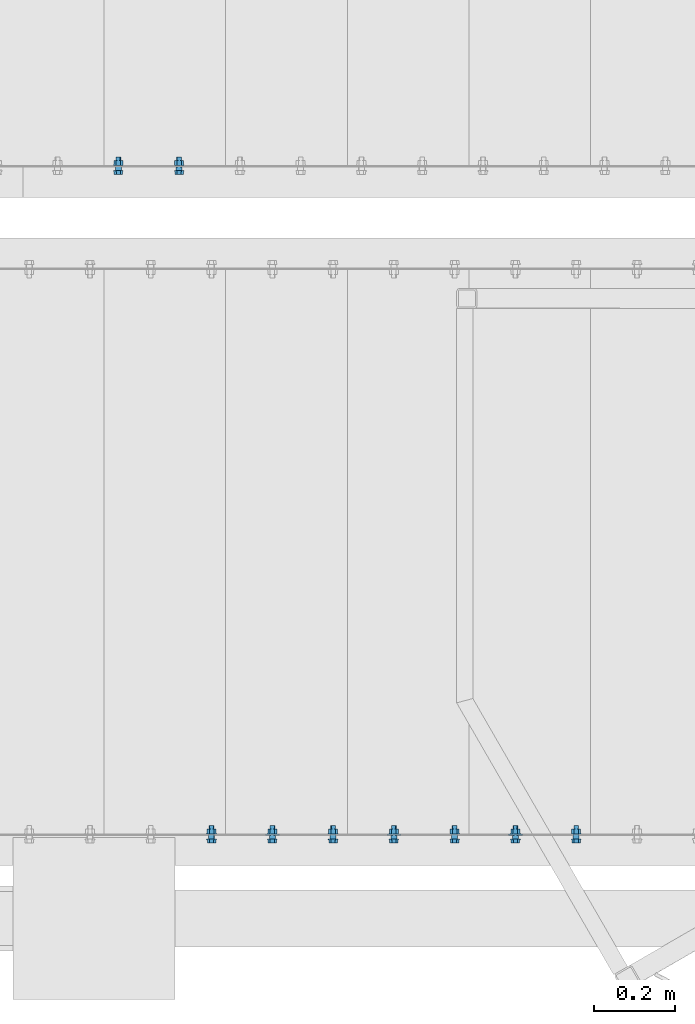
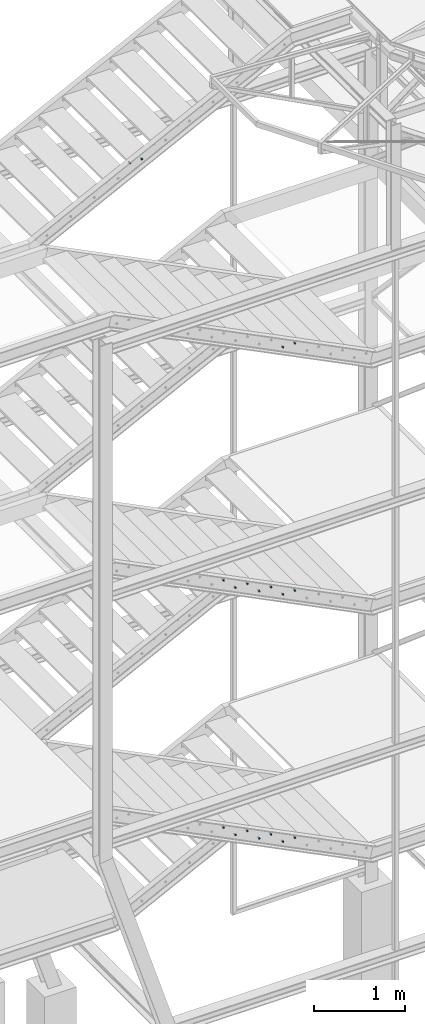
# One storey, part 101 of 132: 18 mechanical fasteners, 10 elements without a shape of their own.
"""IFC2X3 building model written with IfcOpenShell, lengths in millimetres."""

import ifcopenshell
import ifcopenshell.guid

model = None  # the IFC model being written
_history = None  # IfcOwnerHistory: only IFC2X3 demands one
_inside = {}  # id of a spatial element -> (the spatial element, [elements in it])
_under = {}  # id of a project, library or spatial element -> (it, [spatial elements below it])
_declared = {}  # id of a project -> (the project, [libraries it declares])
_typed = {}  # id of a type object -> (the type object, [elements of that type])
_made_of = {}  # id of a material, layer set ... -> (it, [elements and type objects made of it])


def new_model(schema):
    """Start an empty IFC model of exactly this schema.

    Asked for "IFC4X3", IfcOpenShell would pick the latest addendum, in which some entities
    have other attributes; the version numbers below select the first issue.
    IFC2X3 requires an IfcOwnerHistory on every rooted entity: one is made here for all.
    """
    global model, _history
    if schema == "IFC4X3":
        model = ifcopenshell.file(schema_version=(4, 3, 0, 0))
    else:
        model = ifcopenshell.file(schema=schema)
    _inside.clear()
    _under.clear()
    _declared.clear()
    _typed.clear()
    _made_of.clear()
    _history = None
    if model.schema == "IFC2X3":
        org = make("IfcOrganization", Name="unknown")
        user = make(
            "IfcPersonAndOrganization",
            ThePerson=make("IfcPerson", FamilyName="unknown"),
            TheOrganization=org,
        )
        app = make(
            "IfcApplication",
            ApplicationDeveloper=org,
            Version="unknown",
            ApplicationFullName="unknown",
            ApplicationIdentifier="unknown",
        )
        _history = make(
            "IfcOwnerHistory",
            OwningUser=user,
            OwningApplication=app,
            ChangeAction="ADDED",
            CreationDate=0,
        )
    return model


def make(cls, **values):
    """One entity of the class cls with the attributes given. An attribute that is None is left unset."""
    return model.create_entity(
        cls, **{name: value for name, value in values.items() if value is not None}
    )


def rooted(cls, **values):
    """An entity with a GlobalId (a new one), such as an element, a storey or a relation."""
    return make(cls, GlobalId=ifcopenshell.guid.new(), OwnerHistory=_history, **values)


def si_unit(unit_type, name, prefix=None):
    """IfcSIUnit, for example si_unit("LENGTHUNIT", "METRE", prefix="MILLI")."""
    return make("IfcSIUnit", UnitType=unit_type, Prefix=prefix, Name=name)


def assignment(units):
    """IfcUnitAssignment: the units of a project."""
    return None if units is None else make("IfcUnitAssignment", Units=units)


def point(xyz):
    """IfcCartesianPoint."""
    return None if xyz is None else make("IfcCartesianPoint", Coordinates=xyz)


def direction(xyz):
    """IfcDirection."""
    return None if xyz is None else make("IfcDirection", DirectionRatios=xyz)


def frame(location, z_axis=None, x_axis=None):
    """IfcAxis2Placement3D, a coordinate frame: its origin and axes. An axis left out is left unset."""
    return make(
        "IfcAxis2Placement3D",
        Location=point(location),
        Axis=direction(z_axis),
        RefDirection=direction(x_axis),
    )


def frame_2d(location, x_axis=None):
    """IfcAxis2Placement2D, a coordinate frame in the plane: its origin and x axis."""
    return make(
        "IfcAxis2Placement2D", Location=point(location), RefDirection=direction(x_axis)
    )


def origin_with_axes():
    """The frame at (0, 0, 0) with the z axis (0, 0, 1) and the x axis (1, 0, 0) written out."""
    return frame((0.0, 0.0, 0.0), z_axis=(0.0, 0.0, 1.0), x_axis=(1.0, 0.0, 0.0))


def origin_2d_with_axis():
    """The frame at (0, 0) in the plane with the x axis (1, 0) written out."""
    return frame_2d((0.0, 0.0), x_axis=(1.0, 0.0))


def place(relative_to, where):
    """IfcLocalPlacement: puts the frame where relative to a parent placement (None: the world)."""
    return make(
        "IfcLocalPlacement", PlacementRelTo=relative_to, RelativePlacement=where
    )


def context(
    kind, dimensions, precision=None, world=None, true_north=None, identifier=None
):
    """IfcGeometricRepresentationContext, for example the 3D "Model" context."""
    return make(
        "IfcGeometricRepresentationContext",
        ContextIdentifier=identifier,
        ContextType=kind,
        CoordinateSpaceDimension=dimensions,
        Precision=precision,
        WorldCoordinateSystem=world,
        TrueNorth=true_north,
    )


def subcontext(parent, identifier, kind, view, scale=None):
    """IfcGeometricRepresentationSubContext, for example "Body" below "Model"."""
    return make(
        "IfcGeometricRepresentationSubContext",
        ContextIdentifier=identifier,
        ContextType=kind,
        ParentContext=parent,
        TargetScale=scale,
        TargetView=view,
    )


def project(units=None, contexts=None):
    """IfcProject with its units and contexts."""
    return rooted(
        "IfcProject",
        Name="project",
        RepresentationContexts=contexts,
        UnitsInContext=assignment(units),
    )


def spatial(cls, under=None, at=None, **own):
    """A site, building, storey or space (cls), placed at a placement, below another one or the project."""
    s = rooted(cls, ObjectPlacement=at, **own)
    if under is not None:
        _under.setdefault(under.id(), (under, []))[1].append(s)
    return s


def polyline(points):
    """IfcPolyline through the points."""
    return make("IfcPolyline", Points=[point(p) for p in points])


def circle_curve(where, radius):
    """IfcCircle in the frame where."""
    return make("IfcCircle", Position=where, Radius=radius)


def parameter(value):
    """IfcParameterValue: where a trimmed curve begins or ends, as a parameter of its basis curve."""
    return model.create_entity("IfcParameterValue", value)


def trimmed(basis, trim1, trim2, sense, master):
    """IfcTrimmedCurve: the piece of a basis curve between two trims."""
    return make(
        "IfcTrimmedCurve",
        BasisCurve=basis,
        Trim1=trim1,
        Trim2=trim2,
        SenseAgreement=sense,
        MasterRepresentation=master,
    )


def segment(curve, same_sense, transition):
    """IfcCompositeCurveSegment."""
    return make(
        "IfcCompositeCurveSegment",
        Transition=transition,
        SameSense=same_sense,
        ParentCurve=curve,
    )


def composite_curve(segments, self_intersect=None):
    """IfcCompositeCurve: segments joined end to end."""
    return make("IfcCompositeCurve", Segments=segments, SelfIntersect=self_intersect)


def profile(cls, at=None, kind="AREA", **sizes):
    """A parametric profile (cls). Its sizes go by their IFC names, for example OverallWidth=200.0."""
    return make(cls, ProfileType=kind, Position=at, **sizes)


def circle(**sizes):
    """IfcCircleProfileDef."""
    return profile("IfcCircleProfileDef", **sizes)


def outline(outer, holes=None, kind="AREA"):
    """IfcArbitraryClosedProfileDef: a profile drawn as a closed curve; with holes, ...WithVoids."""
    if holes is None:
        return make("IfcArbitraryClosedProfileDef", ProfileType=kind, OuterCurve=outer)
    return make(
        "IfcArbitraryProfileDefWithVoids",
        ProfileType=kind,
        OuterCurve=outer,
        InnerCurves=holes,
    )


def extrude(swept, where, along, depth):
    """IfcExtrudedAreaSolid: the profile swept, set in the frame where, extruded along a direction by depth."""
    return make(
        "IfcExtrudedAreaSolid",
        SweptArea=swept,
        Position=where,
        ExtrudedDirection=direction(along),
        Depth=depth,
    )


def shape(context_of_items, identifier, shape_type, items):
    """IfcShapeRepresentation: the items that make up one representation, for example the "Body"."""
    return make(
        "IfcShapeRepresentation",
        ContextOfItems=context_of_items,
        RepresentationIdentifier=identifier,
        RepresentationType=shape_type,
        Items=items,
    )


def source(mapping_origin, context_of_items, identifier, shape_type, items):
    """IfcRepresentationMap: a shape defined once, which mapped items show again and again."""
    return make(
        "IfcRepresentationMap",
        MappingOrigin=mapping_origin,
        MappedRepresentation=shape(context_of_items, identifier, shape_type, items),
    )


def transform(
    local_origin,
    x_axis=None,
    y_axis=None,
    z_axis=None,
    scale=None,
    scale2=None,
    scale3=None,
    uniform=True,
):
    """IfcCartesianTransformationOperator3D, or its non-uniform kind. x_axis, y_axis, z_axis: its Axis1, 2, 3."""
    if uniform:
        return make(
            "IfcCartesianTransformationOperator3D",
            Axis1=direction(x_axis),
            Axis2=direction(y_axis),
            LocalOrigin=point(local_origin),
            Scale=scale,
            Axis3=direction(z_axis),
        )
    return make(
        "IfcCartesianTransformationOperator3DnonUniform",
        Axis1=direction(x_axis),
        Axis2=direction(y_axis),
        LocalOrigin=point(local_origin),
        Scale=scale,
        Axis3=direction(z_axis),
        Scale2=scale2,
        Scale3=scale3,
    )


def mapped(mapping_source, mapping_target):
    """IfcMappedItem: shows the shape of a source again, moved by a transform."""
    return make(
        "IfcMappedItem", MappingSource=mapping_source, MappingTarget=mapping_target
    )


def material(Name=None, Category=None):
    """IfcMaterial."""
    return make("IfcMaterial", Name=Name, Category=Category)


def made_of(thing, what):
    """Note that an element or type object is made of a material, layer set ...; save() writes the relation."""
    if what is not None:
        _made_of.setdefault(what.id(), (what, []))[1].append(thing)
    return thing


def type_object(cls, material=None, **own):
    """A type object (cls), such as IfcWallType, which elements share."""
    return made_of(rooted(cls, **own), material)


def element(
    cls,
    number,
    at=None,
    inside=None,
    cuts=None,
    type_object=None,
    material=None,
    context=None,
    identifier="Body",
    shape_type=None,
    held_by="IfcProductDefinitionShape",
    body=None,
    shapes=None,
    **own,
):
    """One element of the class cls, such as IfcWall. Its Tag is "e" and its number.

    at: its placement. inside: the storey or other place that contains it. cuts: it is an
    opening in that element (IfcRelVoidsElement). A single representation is given by context,
    identifier, shape_type and body (its items); several are given by shapes. held_by: the class
    of the entity that holds the representations. save() writes the other relations.
    """
    e = rooted(cls, Tag="e%d" % number, ObjectPlacement=at, **own)
    if body is not None:
        shapes = [shape(context, identifier, shape_type, body)]
    if shapes is not None:
        e.Representation = make(held_by, Representations=shapes)
    if inside is not None:
        _inside.setdefault(inside.id(), (inside, []))[1].append(e)
    if cuts is not None:
        rooted(
            "IfcRelVoidsElement", RelatingBuildingElement=cuts, RelatedOpeningElement=e
        )
    if type_object is not None:
        _typed.setdefault(type_object.id(), (type_object, []))[1].append(e)
    return made_of(e, material)


def aggregate(whole, parts):
    """IfcRelAggregates: a whole, such as a stair, and the parts it consists of."""
    return rooted("IfcRelAggregates", RelatingObject=whole, RelatedObjects=parts)


def save(model, path):
    """Write the relations noted so far, then the file.

    IfcRelAggregates (storeys below a building ...), IfcRelContainedInSpatialStructure (elements
    in a storey), IfcRelDefinesByType, IfcRelAssociatesMaterial and IfcRelDeclares: one each for
    every whole, place, type object, material and project.
    """
    for whole, parts in _under.values():
        aggregate(whole, parts)
    for where, things in _inside.values():
        rooted(
            "IfcRelContainedInSpatialStructure",
            RelatedElements=things,
            RelatingStructure=where,
        )
    for kind, things in _typed.values():
        rooted("IfcRelDefinesByType", RelatedObjects=things, RelatingType=kind)
    for what, things in _made_of.values():
        rooted("IfcRelAssociatesMaterial", RelatedObjects=things, RelatingMaterial=what)
    for by, libraries in _declared.values():
        rooted("IfcRelDeclares", RelatingContext=by, RelatedDefinitions=libraries)
    model.write(path)


model = new_model("IFC2X3")

# Units and contexts
model_context = context("Model", 3, precision=1e-05, world=origin_with_axes())
body_context = subcontext(model_context, "Body", "Model", "MODEL_VIEW")
ifc_project = project(units=[si_unit("LENGTHUNIT", "METRE", prefix="MILLI"), si_unit("AREAUNIT", "SQUARE_METRE"), si_unit("VOLUMEUNIT", "CUBIC_METRE"), si_unit("MASSUNIT", "GRAM", prefix="KILO"), si_unit("TIMEUNIT", "SECOND"), si_unit("PLANEANGLEUNIT", "RADIAN"), si_unit("SOLIDANGLEUNIT", "STERADIAN"), si_unit("THERMODYNAMICTEMPERATUREUNIT", "DEGREE_CELSIUS"), si_unit("LUMINOUSINTENSITYUNIT", "LUMEN")], contexts=[model_context])

# Site, building, storey
site_placement = place(None, origin_with_axes())
site = spatial("IfcSite", under=ifc_project, at=site_placement, Name="Budowa", CompositionType="ELEMENT")
building_placement = place(site_placement, origin_with_axes())
building = spatial("IfcBuilding", under=site, at=building_placement, Name="Undefined", CompositionType="ELEMENT")
storey_placement = place(building_placement, origin_with_axes())
storey = spatial("IfcBuildingStorey", under=building, at=storey_placement, Name="Undefined", CompositionType="ELEMENT", Elevation=0.0)

# Assembly, mechanical fastener
assembly_1_placement = place(storey_placement, origin_with_axes())
assembly_1 = element("IfcElementAssembly", 1, at=assembly_1_placement, inside=storey, Name="Steel Assembly", AssemblyPlace="NOTDEFINED", PredefinedType="RIGID_FRAME")
ifc_material = material(Name="Undefined")
discrete_accessory_type = type_object("IfcDiscreteAccessoryType", Name="Bolt assembly")
shared_shape_1 = source(origin_with_axes(), body_context, "Body", "SweptSolid", [
    extrude(circle(Radius=7.5, at=origin_2d_with_axis()), frame((0.0, -8.40000000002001, 0.0), z_axis=(0.0, 1.0, 0.0), x_axis=(1.0, 0.0, 0.0)), (0.0, 0.0, 1.0), 8.5),
    extrude(circle(Radius=7.5, at=origin_2d_with_axis()), frame((0.0, -0.1, 0.0), z_axis=(0.0, 1.0, 0.0), x_axis=(1.0, 0.0, 0.0)), (0.0, 0.0, 1.0), 3.1),
    extrude(outline(polyline([(10.39230484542, 0.0), (5.19615242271, 9.00000000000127), (-5.19615242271, 9.00000000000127), (-10.39230484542, 0.0), (-5.19615242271, -9.00000000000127), (5.19615242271, -9.00000000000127), (10.39230484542, 0.0)])), frame((0.0, -18.50000000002, 0.0), z_axis=(0.0, 1.0, 0.0), x_axis=(1.0, 0.0, 0.0)), (0.0, 0.0, 1.0), 7.5),
    extrude(circle(Radius=6.0, at=origin_2d_with_axis()), frame((0.0, -11.00000000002, 0.0), z_axis=(0.0, 1.0, 0.0), x_axis=(1.0, 0.0, 0.0)), (0.0, 0.0, 1.0), 35.0),
    extrude(circle(Radius=12.0, at=origin_2d_with_axis()), frame((0.0, -11.00000000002, 0.0), z_axis=(0.0, 1.0, 0.0), x_axis=(1.0, 0.0, 0.0)), (0.0, 0.0, 1.0), 2.5),
    extrude(circle(Radius=12.0, at=origin_2d_with_axis()), frame((0.0, 3.0, 0.0), z_axis=(0.0, 1.0, 0.0), x_axis=(1.0, 0.0, 0.0)), (0.0, 0.0, 1.0), 2.5),
    extrude(outline(polyline([(10.96965511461, 0.0), (5.484827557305, 9.50000000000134), (-5.484827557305, 9.50000000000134), (-10.96965511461, 0.0), (-5.484827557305, -9.50000000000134), (5.484827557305, -9.50000000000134), (10.96965511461, 0.0)])), frame((0.0, 5.5, 0.0), z_axis=(0.0, 1.0, 0.0), x_axis=(1.0, 0.0, 0.0)), (0.0, 0.0, 1.0), 10.0),
])
mechanical_fastener_1_placement = place(assembly_1_placement, frame((-2620.00000008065, 9525.0000000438, 12949.9999999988), z_axis=(0.0, 0.0, -1.0), x_axis=(-1.0, 0.0, 0.0)))
mechanical_fastener_1 = element("IfcMechanicalFastener", 2, at=mechanical_fastener_1_placement, type_object=discrete_accessory_type, material=ifc_material, Name="Bolt assembly", NominalDiameter=12.0, NominalLength=35.0, context=body_context, shape_type="MappedRepresentation", body=[
    mapped(shared_shape_1, transform((265.0, 0.0, 25.0))),
])

assembly_2_placement = place(storey_placement, origin_with_axes())
assembly_2 = element("IfcElementAssembly", 3, at=assembly_2_placement, inside=storey, Name="Steel Assembly", AssemblyPlace="NOTDEFINED", PredefinedType="RIGID_FRAME")
mechanical_fastener_2_placement = place(assembly_2_placement, frame((-1720.00000007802, 7875.00000004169, 11150.0000000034), z_axis=(0.0, 0.0, -1.0), x_axis=(-1.0, 0.0, 0.0)))
mechanical_fastener_2 = element("IfcMechanicalFastener", 4, at=mechanical_fastener_2_placement, type_object=discrete_accessory_type, material=ifc_material, Name="Bolt assembly", NominalDiameter=12.0, NominalLength=35.0, context=body_context, shape_type="MappedRepresentation", body=[
    mapped(shared_shape_1, transform((35.0, 0.0, 25.0))),
])

assembly_3_placement = place(storey_placement, origin_with_axes())
assembly_3 = element("IfcElementAssembly", 5, at=assembly_3_placement, inside=storey, Name="Steel Assembly", AssemblyPlace="NOTDEFINED", PredefinedType="RIGID_FRAME")
mechanical_fastener_3_placement = place(assembly_3_placement, frame((-2620.00000007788, 7875.00000004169, 8300.00000000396), z_axis=(0.0, 0.0, -1.0), x_axis=(-1.0, 0.0, 0.0)))
mechanical_fastener_3 = element("IfcMechanicalFastener", 6, at=mechanical_fastener_3_placement, type_object=discrete_accessory_type, material=ifc_material, Name="Bolt assembly", NominalDiameter=12.0, NominalLength=35.0, context=body_context, shape_type="MappedRepresentation", body=[
    mapped(shared_shape_1, transform((35.0, 0.0, 25.0))),
])
aggregate(assembly_3, [mechanical_fastener_3])

assembly_4_placement = place(storey_placement, origin_with_axes())
assembly_4 = element("IfcElementAssembly", 7, at=assembly_4_placement, inside=storey, Name="Steel Assembly", AssemblyPlace="NOTDEFINED", PredefinedType="RIGID_FRAME")
mechanical_fastener_4_placement = place(assembly_4_placement, frame((-2320.00000007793, 7875.00000004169, 8150.00000000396), z_axis=(0.0, 0.0, -1.0), x_axis=(-1.0, 0.0, 0.0)))
mechanical_fastener_4 = element("IfcMechanicalFastener", 8, at=mechanical_fastener_4_placement, type_object=discrete_accessory_type, material=ifc_material, Name="Bolt assembly", NominalDiameter=12.0, NominalLength=35.0, context=body_context, shape_type="MappedRepresentation", body=[
    mapped(shared_shape_1, transform((35.0, 0.0, 25.0))),
])

assembly_5_placement = place(storey_placement, origin_with_axes())
assembly_5 = element("IfcElementAssembly", 9, at=assembly_5_placement, inside=storey, Name="Steel Assembly", AssemblyPlace="NOTDEFINED", PredefinedType="RIGID_FRAME")
mechanical_fastener_5_placement = place(assembly_5_placement, frame((-2020.00000007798, 7875.00000004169, 8000.00000000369), z_axis=(0.0, 0.0, -1.0), x_axis=(-1.0, 0.0, 0.0)))
mechanical_fastener_5 = element("IfcMechanicalFastener", 10, at=mechanical_fastener_5_placement, type_object=discrete_accessory_type, material=ifc_material, Name="Bolt assembly", NominalDiameter=12.0, NominalLength=35.0, context=body_context, shape_type="MappedRepresentation", body=[
    mapped(shared_shape_1, transform((35.0, 0.0, 25.0))),
])

assembly_6_placement = place(storey_placement, origin_with_axes())
assembly_6 = element("IfcElementAssembly", 11, at=assembly_6_placement, inside=storey, Name="Steel Assembly", AssemblyPlace="NOTDEFINED", PredefinedType="RIGID_FRAME")
mechanical_fastener_6_placement = place(assembly_6_placement, frame((-1720.00000007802, 7875.00000004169, 7850.00000000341), z_axis=(0.0, 0.0, -1.0), x_axis=(-1.0, 0.0, 0.0)))
mechanical_fastener_6 = element("IfcMechanicalFastener", 12, at=mechanical_fastener_6_placement, type_object=discrete_accessory_type, material=ifc_material, Name="Bolt assembly", NominalDiameter=12.0, NominalLength=35.0, context=body_context, shape_type="MappedRepresentation", body=[
    mapped(shared_shape_1, transform((35.0, 0.0, 25.0))),
])

assembly_7_placement = place(storey_placement, origin_with_axes())
assembly_7 = element("IfcElementAssembly", 13, at=assembly_7_placement, inside=storey, Name="Steel Assembly", AssemblyPlace="NOTDEFINED", PredefinedType="RIGID_FRAME")
mechanical_fastener_7_placement = place(assembly_7_placement, frame((-2620.00000007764, 7875.00000004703, 4999.99999999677), z_axis=(0.0, 0.0, -1.0), x_axis=(-1.0, 0.0, 0.0)))
mechanical_fastener_7 = element("IfcMechanicalFastener", 14, at=mechanical_fastener_7_placement, type_object=discrete_accessory_type, material=ifc_material, Name="Bolt assembly", NominalDiameter=12.0, NominalLength=35.0, context=body_context, shape_type="MappedRepresentation", body=[
    mapped(shared_shape_1, transform((35.0, 0.0, 25.0))),
])
aggregate(assembly_7, [mechanical_fastener_7])

assembly_8_placement = place(storey_placement, origin_with_axes())
assembly_8 = element("IfcElementAssembly", 15, at=assembly_8_placement, inside=storey, Name="Steel Assembly", AssemblyPlace="NOTDEFINED", PredefinedType="RIGID_FRAME")
mechanical_fastener_8_placement = place(assembly_8_placement, frame((-2320.00000007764, 7875.00000004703, 4849.99999999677), z_axis=(0.0, 0.0, -1.0), x_axis=(-1.0, 0.0, 0.0)))
mechanical_fastener_8 = element("IfcMechanicalFastener", 16, at=mechanical_fastener_8_placement, type_object=discrete_accessory_type, material=ifc_material, Name="Bolt assembly", NominalDiameter=12.0, NominalLength=35.0, context=body_context, shape_type="MappedRepresentation", body=[
    mapped(shared_shape_1, transform((35.0, 0.0, 25.0))),
])

assembly_9_placement = place(storey_placement, origin_with_axes())
assembly_9 = element("IfcElementAssembly", 17, at=assembly_9_placement, inside=storey, Name="Steel Assembly", AssemblyPlace="NOTDEFINED", PredefinedType="RIGID_FRAME")
mechanical_fastener_9_placement = place(assembly_9_placement, frame((-2020.00000007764, 7875.00000004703, 4699.99999999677), z_axis=(0.0, 0.0, -1.0), x_axis=(-1.0, 0.0, 0.0)))
mechanical_fastener_9 = element("IfcMechanicalFastener", 18, at=mechanical_fastener_9_placement, type_object=discrete_accessory_type, material=ifc_material, Name="Bolt assembly", NominalDiameter=12.0, NominalLength=35.0, context=body_context, shape_type="MappedRepresentation", body=[
    mapped(shared_shape_1, transform((35.0, 0.0, 25.0))),
])

assembly_10_placement = place(storey_placement, origin_with_axes())
assembly_10 = element("IfcElementAssembly", 19, at=assembly_10_placement, inside=storey, Name="Steel Assembly", AssemblyPlace="NOTDEFINED", PredefinedType="RIGID_FRAME")
mechanical_fastener_10_placement = place(assembly_10_placement, frame((-1720.00000007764, 7875.00000004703, 4549.99999999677), z_axis=(0.0, 0.0, -1.0), x_axis=(-1.0, 0.0, 0.0)))
mechanical_fastener_10 = element("IfcMechanicalFastener", 20, at=mechanical_fastener_10_placement, type_object=discrete_accessory_type, material=ifc_material, Name="Bolt assembly", NominalDiameter=12.0, NominalLength=35.0, context=body_context, shape_type="MappedRepresentation", body=[
    mapped(shared_shape_1, transform((35.0, 0.0, 25.0))),
])

# Mechanical fastener
shared_shape_2 = source(origin_with_axes(), body_context, "Body", "SweptSolid", [
    extrude(circle(Radius=7.5, at=origin_2d_with_axis()), frame((0.0, -8.40000000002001, 0.0), z_axis=(0.0, 1.0, 0.0), x_axis=(1.0, 0.0, 0.0)), (0.0, 0.0, 1.0), 8.5),
    extrude(outline(composite_curve([segment(polyline([(-10.0, 7.5), (10.0, 7.5)]), True, "CONTINUOUS"), segment(trimmed(circle_curve(frame_2d((10.0, 0.0), x_axis=(0.0, 1.0)), 7.5), [parameter(0.0)], [parameter(3.14159265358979)], False, "PARAMETER"), True, "CONTINUOUS"), segment(polyline([(10.0, -7.5), (-10.0, -7.5)]), True, "CONTINUOUS"), segment(trimmed(circle_curve(frame_2d((-10.0, 0.0), x_axis=(0.0, -1.0)), 7.5), [parameter(0.0)], [parameter(3.14159265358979)], False, "PARAMETER"), True, "DISCONTINUOUS")], self_intersect=False)), frame((0.0, -0.1, 0.0), z_axis=(0.0, 1.0, 0.0), x_axis=(1.0, 0.0, 0.0)), (0.0, 0.0, 1.0), 3.1),
    extrude(outline(polyline([(10.39230484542, 0.0), (5.19615242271, 9.00000000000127), (-5.19615242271, 9.00000000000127), (-10.39230484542, 0.0), (-5.19615242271, -9.00000000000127), (5.19615242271, -9.00000000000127), (10.39230484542, 0.0)])), frame((0.0, -18.50000000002, 0.0), z_axis=(0.0, 1.0, 0.0), x_axis=(1.0, 0.0, 0.0)), (0.0, 0.0, 1.0), 7.5),
    extrude(circle(Radius=6.0, at=origin_2d_with_axis()), frame((0.0, -11.00000000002, 0.0), z_axis=(0.0, 1.0, 0.0), x_axis=(1.0, 0.0, 0.0)), (0.0, 0.0, 1.0), 35.0),
    extrude(circle(Radius=12.0, at=origin_2d_with_axis()), frame((0.0, -11.00000000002, 0.0), z_axis=(0.0, 1.0, 0.0), x_axis=(1.0, 0.0, 0.0)), (0.0, 0.0, 1.0), 2.5),
    extrude(circle(Radius=12.0, at=origin_2d_with_axis()), frame((0.0, 3.0, 0.0), z_axis=(0.0, 1.0, 0.0), x_axis=(1.0, 0.0, 0.0)), (0.0, 0.0, 1.0), 2.5),
    extrude(outline(polyline([(10.96965511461, 0.0), (5.484827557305, 9.50000000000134), (-5.484827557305, 9.50000000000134), (-10.96965511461, 0.0), (-5.484827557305, -9.50000000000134), (5.484827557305, -9.50000000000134), (10.96965511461, 0.0)])), frame((0.0, 5.5, 0.0), z_axis=(0.0, 1.0, 0.0), x_axis=(1.0, 0.0, 0.0)), (0.0, 0.0, 1.0), 10.0),
])
mechanical_fastener_11_placement = place(assembly_1_placement, frame((-2620.00000008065, 9525.0000000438, 12949.9999999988), z_axis=(0.0, 0.0, -1.0), x_axis=(-1.0, 0.0, 0.0)))
mechanical_fastener_11 = element("IfcMechanicalFastener", 21, at=mechanical_fastener_11_placement, type_object=discrete_accessory_type, material=ifc_material, Name="Bolt assembly", NominalDiameter=12.0, NominalLength=35.0, context=body_context, shape_type="MappedRepresentation", body=[
    mapped(shared_shape_2, transform((115.0, 0.0, 25.0))),
])

aggregate(assembly_1, [mechanical_fastener_11, mechanical_fastener_1])

shared_shape_3 = source(origin_with_axes(), body_context, "Body", "SweptSolid", [
    extrude(circle(Radius=7.5, at=origin_2d_with_axis()), frame((0.0, -8.40000000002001, 0.0), z_axis=(0.0, 1.0, 0.0), x_axis=(1.0, 0.0, 0.0)), (0.0, 0.0, 1.0), 8.5),
    extrude(outline(composite_curve([segment(polyline([(-10.0, 7.5), (10.0, 7.5)]), True, "CONTINUOUS"), segment(trimmed(circle_curve(frame_2d((10.0, 0.0), x_axis=(0.0, 1.0)), 7.5), [parameter(0.0)], [parameter(3.14159265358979)], False, "PARAMETER"), True, "CONTINUOUS"), segment(polyline([(10.0, -7.5), (-10.0, -7.5)]), True, "CONTINUOUS"), segment(trimmed(circle_curve(frame_2d((-10.0, 0.0), x_axis=(0.0, -1.0)), 7.5), [parameter(0.0)], [parameter(3.14159265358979)], False, "PARAMETER"), True, "DISCONTINUOUS")], self_intersect=False)), frame((0.0, -0.1, 0.0), z_axis=(0.0, 1.0, 0.0), x_axis=(1.0, 0.0, 0.0)), (0.0, 0.0, 1.0), 3.1),
    extrude(outline(polyline([(10.39230484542, 0.0), (5.19615242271, 9.00000000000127), (-5.19615242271, 9.00000000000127), (-10.39230484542, 0.0), (-5.19615242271, -9.00000000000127), (5.19615242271, -9.00000000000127), (10.39230484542, 0.0)])), frame((0.0, -18.50000000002, 0.0), z_axis=(0.0, 1.0, 0.0), x_axis=(1.0, 0.0, 0.0)), (0.0, 0.0, 1.0), 7.5),
    extrude(circle(Radius=6.0, at=origin_2d_with_axis()), frame((0.0, -11.00000000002, 0.0), z_axis=(0.0, 1.0, 0.0), x_axis=(1.0, 0.0, 0.0)), (0.0, 0.0, 1.0), 35.0),
    extrude(circle(Radius=12.0, at=origin_2d_with_axis()), frame((0.0, -11.00000000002, 0.0), z_axis=(0.0, 1.0, 0.0), x_axis=(1.0, 0.0, 0.0)), (0.0, 0.0, 1.0), 2.5),
    extrude(circle(Radius=12.0, at=origin_2d_with_axis()), frame((0.0, 3.0, 0.0), z_axis=(0.0, 1.0, 0.0), x_axis=(1.0, 0.0, 0.0)), (0.0, 0.0, 1.0), 2.5),
    extrude(outline(polyline([(10.96965511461, 0.0), (5.484827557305, 9.50000000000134), (-5.484827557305, 9.50000000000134), (-10.96965511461, 0.0), (-5.484827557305, -9.50000000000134), (5.484827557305, -9.50000000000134), (10.96965511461, 0.0)])), frame((0.0, 5.5, 0.0), z_axis=(0.0, 1.0, 0.0), x_axis=(1.0, 0.0, 0.0)), (0.0, 0.0, 1.0), 10.0),
])
mechanical_fastener_12_placement = place(assembly_2_placement, frame((-1720.00000007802, 7875.00000004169, 11150.0000000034), z_axis=(0.0, 0.0, -1.0), x_axis=(-1.0, 0.0, 0.0)))
mechanical_fastener_12 = element("IfcMechanicalFastener", 22, at=mechanical_fastener_12_placement, type_object=discrete_accessory_type, material=ifc_material, Name="Bolt assembly", NominalDiameter=12.0, NominalLength=35.0, context=body_context, shape_type="MappedRepresentation", body=[
    mapped(shared_shape_3, transform((185.0, 0.0, 25.0))),
])

aggregate(assembly_2, [mechanical_fastener_12, mechanical_fastener_2])

shared_shape_4 = source(origin_with_axes(), body_context, "Body", "SweptSolid", [
    extrude(circle(Radius=7.5, at=origin_2d_with_axis()), frame((0.0, -8.40000000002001, 0.0), z_axis=(0.0, 1.0, 0.0), x_axis=(1.0, 0.0, 0.0)), (0.0, 0.0, 1.0), 8.5),
    extrude(outline(composite_curve([segment(polyline([(-10.0, 7.5), (10.0, 7.5)]), True, "CONTINUOUS"), segment(trimmed(circle_curve(frame_2d((10.0, 0.0), x_axis=(0.0, 1.0)), 7.5), [parameter(0.0)], [parameter(3.14159265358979)], False, "PARAMETER"), True, "CONTINUOUS"), segment(polyline([(10.0, -7.5), (-10.0, -7.5)]), True, "CONTINUOUS"), segment(trimmed(circle_curve(frame_2d((-10.0, 0.0), x_axis=(0.0, -1.0)), 7.5), [parameter(0.0)], [parameter(3.14159265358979)], False, "PARAMETER"), True, "DISCONTINUOUS")], self_intersect=False)), frame((0.0, -0.1, 0.0), z_axis=(0.0, 1.0, 0.0), x_axis=(1.0, 0.0, 0.0)), (0.0, 0.0, 1.0), 3.1),
    extrude(outline(polyline([(10.39230484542, 0.0), (5.19615242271, 9.00000000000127), (-5.19615242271, 9.00000000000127), (-10.39230484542, 0.0), (-5.19615242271, -9.00000000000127), (5.19615242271, -9.00000000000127), (10.39230484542, 0.0)])), frame((0.0, -18.50000000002, 0.0), z_axis=(0.0, 1.0, 0.0), x_axis=(1.0, 0.0, 0.0)), (0.0, 0.0, 1.0), 7.5),
    extrude(circle(Radius=6.0, at=origin_2d_with_axis()), frame((0.0, -11.00000000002, 0.0), z_axis=(0.0, 1.0, 0.0), x_axis=(1.0, 0.0, 0.0)), (0.0, 0.0, 1.0), 35.0),
    extrude(circle(Radius=12.0, at=origin_2d_with_axis()), frame((0.0, -11.00000000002, 0.0), z_axis=(0.0, 1.0, 0.0), x_axis=(1.0, 0.0, 0.0)), (0.0, 0.0, 1.0), 2.5),
    extrude(circle(Radius=12.0, at=origin_2d_with_axis()), frame((0.0, 3.0, 0.0), z_axis=(0.0, 1.0, 0.0), x_axis=(1.0, 0.0, 0.0)), (0.0, 0.0, 1.0), 2.5),
    extrude(outline(polyline([(10.96965511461, 0.0), (5.484827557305, 9.50000000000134), (-5.484827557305, 9.50000000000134), (-10.96965511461, 0.0), (-5.484827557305, -9.50000000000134), (5.484827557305, -9.50000000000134), (10.96965511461, 0.0)])), frame((0.0, 5.5, 0.0), z_axis=(0.0, 1.0, 0.0), x_axis=(1.0, 0.0, 0.0)), (0.0, 0.0, 1.0), 10.0),
])
mechanical_fastener_13_placement = place(assembly_4_placement, frame((-2320.00000007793, 7875.00000004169, 8150.00000000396), z_axis=(0.0, 0.0, -1.0), x_axis=(-1.0, 0.0, 0.0)))
mechanical_fastener_13 = element("IfcMechanicalFastener", 23, at=mechanical_fastener_13_placement, type_object=discrete_accessory_type, material=ifc_material, Name="Bolt assembly", NominalDiameter=12.0, NominalLength=35.0, context=body_context, shape_type="MappedRepresentation", body=[
    mapped(shared_shape_4, transform((185.0, 0.0, 25.0))),
])

aggregate(assembly_4, [mechanical_fastener_13, mechanical_fastener_4])

shared_shape_5 = source(origin_with_axes(), body_context, "Body", "SweptSolid", [
    extrude(circle(Radius=7.5, at=origin_2d_with_axis()), frame((0.0, -8.40000000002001, 0.0), z_axis=(0.0, 1.0, 0.0), x_axis=(1.0, 0.0, 0.0)), (0.0, 0.0, 1.0), 8.5),
    extrude(outline(composite_curve([segment(polyline([(-10.0, 7.5), (10.0, 7.5)]), True, "CONTINUOUS"), segment(trimmed(circle_curve(frame_2d((10.0, 0.0), x_axis=(0.0, 1.0)), 7.5), [parameter(0.0)], [parameter(3.14159265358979)], False, "PARAMETER"), True, "CONTINUOUS"), segment(polyline([(10.0, -7.5), (-10.0, -7.5)]), True, "CONTINUOUS"), segment(trimmed(circle_curve(frame_2d((-10.0, 0.0), x_axis=(0.0, -1.0)), 7.5), [parameter(0.0)], [parameter(3.14159265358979)], False, "PARAMETER"), True, "DISCONTINUOUS")], self_intersect=False)), frame((0.0, -0.1, 0.0), z_axis=(0.0, 1.0, 0.0), x_axis=(1.0, 0.0, 0.0)), (0.0, 0.0, 1.0), 3.1),
    extrude(outline(polyline([(10.39230484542, 0.0), (5.19615242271, 9.00000000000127), (-5.19615242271, 9.00000000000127), (-10.39230484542, 0.0), (-5.19615242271, -9.00000000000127), (5.19615242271, -9.00000000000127), (10.39230484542, 0.0)])), frame((0.0, -18.50000000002, 0.0), z_axis=(0.0, 1.0, 0.0), x_axis=(1.0, 0.0, 0.0)), (0.0, 0.0, 1.0), 7.5),
    extrude(circle(Radius=6.0, at=origin_2d_with_axis()), frame((0.0, -11.00000000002, 0.0), z_axis=(0.0, 1.0, 0.0), x_axis=(1.0, 0.0, 0.0)), (0.0, 0.0, 1.0), 35.0),
    extrude(circle(Radius=12.0, at=origin_2d_with_axis()), frame((0.0, -11.00000000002, 0.0), z_axis=(0.0, 1.0, 0.0), x_axis=(1.0, 0.0, 0.0)), (0.0, 0.0, 1.0), 2.5),
    extrude(circle(Radius=12.0, at=origin_2d_with_axis()), frame((0.0, 3.0, 0.0), z_axis=(0.0, 1.0, 0.0), x_axis=(1.0, 0.0, 0.0)), (0.0, 0.0, 1.0), 2.5),
    extrude(outline(polyline([(10.96965511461, 0.0), (5.484827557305, 9.50000000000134), (-5.484827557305, 9.50000000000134), (-10.96965511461, 0.0), (-5.484827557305, -9.50000000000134), (5.484827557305, -9.50000000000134), (10.96965511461, 0.0)])), frame((0.0, 5.5, 0.0), z_axis=(0.0, 1.0, 0.0), x_axis=(1.0, 0.0, 0.0)), (0.0, 0.0, 1.0), 10.0),
])
mechanical_fastener_14_placement = place(assembly_5_placement, frame((-2020.00000007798, 7875.00000004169, 8000.00000000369), z_axis=(0.0, 0.0, -1.0), x_axis=(-1.0, 0.0, 0.0)))
mechanical_fastener_14 = element("IfcMechanicalFastener", 24, at=mechanical_fastener_14_placement, type_object=discrete_accessory_type, material=ifc_material, Name="Bolt assembly", NominalDiameter=12.0, NominalLength=35.0, context=body_context, shape_type="MappedRepresentation", body=[
    mapped(shared_shape_5, transform((185.0, 0.0, 25.0))),
])

aggregate(assembly_5, [mechanical_fastener_14, mechanical_fastener_5])

shared_shape_6 = source(origin_with_axes(), body_context, "Body", "SweptSolid", [
    extrude(circle(Radius=7.5, at=origin_2d_with_axis()), frame((0.0, -8.40000000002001, 0.0), z_axis=(0.0, 1.0, 0.0), x_axis=(1.0, 0.0, 0.0)), (0.0, 0.0, 1.0), 8.5),
    extrude(outline(composite_curve([segment(polyline([(-10.0, 7.5), (10.0, 7.5)]), True, "CONTINUOUS"), segment(trimmed(circle_curve(frame_2d((10.0, 0.0), x_axis=(0.0, 1.0)), 7.5), [parameter(0.0)], [parameter(3.14159265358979)], False, "PARAMETER"), True, "CONTINUOUS"), segment(polyline([(10.0, -7.5), (-10.0, -7.5)]), True, "CONTINUOUS"), segment(trimmed(circle_curve(frame_2d((-10.0, 0.0), x_axis=(0.0, -1.0)), 7.5), [parameter(0.0)], [parameter(3.14159265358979)], False, "PARAMETER"), True, "DISCONTINUOUS")], self_intersect=False)), frame((0.0, -0.1, 0.0), z_axis=(0.0, 1.0, 0.0), x_axis=(1.0, 0.0, 0.0)), (0.0, 0.0, 1.0), 3.1),
    extrude(outline(polyline([(10.39230484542, 0.0), (5.19615242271, 9.00000000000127), (-5.19615242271, 9.00000000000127), (-10.39230484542, 0.0), (-5.19615242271, -9.00000000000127), (5.19615242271, -9.00000000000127), (10.39230484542, 0.0)])), frame((0.0, -18.50000000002, 0.0), z_axis=(0.0, 1.0, 0.0), x_axis=(1.0, 0.0, 0.0)), (0.0, 0.0, 1.0), 7.5),
    extrude(circle(Radius=6.0, at=origin_2d_with_axis()), frame((0.0, -11.00000000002, 0.0), z_axis=(0.0, 1.0, 0.0), x_axis=(1.0, 0.0, 0.0)), (0.0, 0.0, 1.0), 35.0),
    extrude(circle(Radius=12.0, at=origin_2d_with_axis()), frame((0.0, -11.00000000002, 0.0), z_axis=(0.0, 1.0, 0.0), x_axis=(1.0, 0.0, 0.0)), (0.0, 0.0, 1.0), 2.5),
    extrude(circle(Radius=12.0, at=origin_2d_with_axis()), frame((0.0, 3.0, 0.0), z_axis=(0.0, 1.0, 0.0), x_axis=(1.0, 0.0, 0.0)), (0.0, 0.0, 1.0), 2.5),
    extrude(outline(polyline([(10.96965511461, 0.0), (5.484827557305, 9.50000000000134), (-5.484827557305, 9.50000000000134), (-10.96965511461, 0.0), (-5.484827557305, -9.50000000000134), (5.484827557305, -9.50000000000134), (10.96965511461, 0.0)])), frame((0.0, 5.5, 0.0), z_axis=(0.0, 1.0, 0.0), x_axis=(1.0, 0.0, 0.0)), (0.0, 0.0, 1.0), 10.0),
])
mechanical_fastener_15_placement = place(assembly_6_placement, frame((-1720.00000007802, 7875.00000004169, 7850.00000000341), z_axis=(0.0, 0.0, -1.0), x_axis=(-1.0, 0.0, 0.0)))
mechanical_fastener_15 = element("IfcMechanicalFastener", 25, at=mechanical_fastener_15_placement, type_object=discrete_accessory_type, material=ifc_material, Name="Bolt assembly", NominalDiameter=12.0, NominalLength=35.0, context=body_context, shape_type="MappedRepresentation", body=[
    mapped(shared_shape_6, transform((185.0, 0.0, 25.0))),
])

aggregate(assembly_6, [mechanical_fastener_15, mechanical_fastener_6])

shared_shape_7 = source(origin_with_axes(), body_context, "Body", "SweptSolid", [
    extrude(circle(Radius=7.5, at=origin_2d_with_axis()), frame((0.0, -8.40000000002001, 0.0), z_axis=(0.0, 1.0, 0.0), x_axis=(1.0, 0.0, 0.0)), (0.0, 0.0, 1.0), 8.5),
    extrude(outline(composite_curve([segment(polyline([(-10.0, 7.5), (10.0, 7.5)]), True, "CONTINUOUS"), segment(trimmed(circle_curve(frame_2d((10.0, 0.0), x_axis=(0.0, 1.0)), 7.5), [parameter(0.0)], [parameter(3.14159265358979)], False, "PARAMETER"), True, "CONTINUOUS"), segment(polyline([(10.0, -7.5), (-10.0, -7.5)]), True, "CONTINUOUS"), segment(trimmed(circle_curve(frame_2d((-10.0, 0.0), x_axis=(0.0, -1.0)), 7.5), [parameter(0.0)], [parameter(3.14159265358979)], False, "PARAMETER"), True, "DISCONTINUOUS")], self_intersect=False)), frame((0.0, -0.1, 0.0), z_axis=(0.0, 1.0, 0.0), x_axis=(1.0, 0.0, 0.0)), (0.0, 0.0, 1.0), 3.1),
    extrude(outline(polyline([(10.39230484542, 0.0), (5.19615242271, 9.00000000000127), (-5.19615242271, 9.00000000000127), (-10.39230484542, 0.0), (-5.19615242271, -9.00000000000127), (5.19615242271, -9.00000000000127), (10.39230484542, 0.0)])), frame((0.0, -18.50000000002, 0.0), z_axis=(0.0, 1.0, 0.0), x_axis=(1.0, 0.0, 0.0)), (0.0, 0.0, 1.0), 7.5),
    extrude(circle(Radius=6.0, at=origin_2d_with_axis()), frame((0.0, -11.00000000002, 0.0), z_axis=(0.0, 1.0, 0.0), x_axis=(1.0, 0.0, 0.0)), (0.0, 0.0, 1.0), 35.0),
    extrude(circle(Radius=12.0, at=origin_2d_with_axis()), frame((0.0, -11.00000000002, 0.0), z_axis=(0.0, 1.0, 0.0), x_axis=(1.0, 0.0, 0.0)), (0.0, 0.0, 1.0), 2.5),
    extrude(circle(Radius=12.0, at=origin_2d_with_axis()), frame((0.0, 3.0, 0.0), z_axis=(0.0, 1.0, 0.0), x_axis=(1.0, 0.0, 0.0)), (0.0, 0.0, 1.0), 2.5),
    extrude(outline(polyline([(10.96965511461, 0.0), (5.484827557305, 9.50000000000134), (-5.484827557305, 9.50000000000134), (-10.96965511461, 0.0), (-5.484827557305, -9.50000000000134), (5.484827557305, -9.50000000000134), (10.96965511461, 0.0)])), frame((0.0, 5.5, 0.0), z_axis=(0.0, 1.0, 0.0), x_axis=(1.0, 0.0, 0.0)), (0.0, 0.0, 1.0), 10.0),
])
mechanical_fastener_16_placement = place(assembly_8_placement, frame((-2320.00000007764, 7875.00000004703, 4849.99999999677), z_axis=(0.0, 0.0, -1.0), x_axis=(-1.0, 0.0, 0.0)))
mechanical_fastener_16 = element("IfcMechanicalFastener", 26, at=mechanical_fastener_16_placement, type_object=discrete_accessory_type, material=ifc_material, Name="Bolt assembly", NominalDiameter=12.0, NominalLength=35.0, context=body_context, shape_type="MappedRepresentation", body=[
    mapped(shared_shape_7, transform((185.0, 0.0, 25.0))),
])

aggregate(assembly_8, [mechanical_fastener_16, mechanical_fastener_8])

shared_shape_8 = source(origin_with_axes(), body_context, "Body", "SweptSolid", [
    extrude(circle(Radius=7.5, at=origin_2d_with_axis()), frame((0.0, -8.40000000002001, 0.0), z_axis=(0.0, 1.0, 0.0), x_axis=(1.0, 0.0, 0.0)), (0.0, 0.0, 1.0), 8.5),
    extrude(outline(composite_curve([segment(polyline([(-10.0, 7.5), (10.0, 7.5)]), True, "CONTINUOUS"), segment(trimmed(circle_curve(frame_2d((10.0, 0.0), x_axis=(0.0, 1.0)), 7.5), [parameter(0.0)], [parameter(3.14159265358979)], False, "PARAMETER"), True, "CONTINUOUS"), segment(polyline([(10.0, -7.5), (-10.0, -7.5)]), True, "CONTINUOUS"), segment(trimmed(circle_curve(frame_2d((-10.0, 0.0), x_axis=(0.0, -1.0)), 7.5), [parameter(0.0)], [parameter(3.14159265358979)], False, "PARAMETER"), True, "DISCONTINUOUS")], self_intersect=False)), frame((0.0, -0.1, 0.0), z_axis=(0.0, 1.0, 0.0), x_axis=(1.0, 0.0, 0.0)), (0.0, 0.0, 1.0), 3.1),
    extrude(outline(polyline([(10.39230484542, 0.0), (5.19615242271, 9.00000000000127), (-5.19615242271, 9.00000000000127), (-10.39230484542, 0.0), (-5.19615242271, -9.00000000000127), (5.19615242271, -9.00000000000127), (10.39230484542, 0.0)])), frame((0.0, -18.50000000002, 0.0), z_axis=(0.0, 1.0, 0.0), x_axis=(1.0, 0.0, 0.0)), (0.0, 0.0, 1.0), 7.5),
    extrude(circle(Radius=6.0, at=origin_2d_with_axis()), frame((0.0, -11.00000000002, 0.0), z_axis=(0.0, 1.0, 0.0), x_axis=(1.0, 0.0, 0.0)), (0.0, 0.0, 1.0), 35.0),
    extrude(circle(Radius=12.0, at=origin_2d_with_axis()), frame((0.0, -11.00000000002, 0.0), z_axis=(0.0, 1.0, 0.0), x_axis=(1.0, 0.0, 0.0)), (0.0, 0.0, 1.0), 2.5),
    extrude(circle(Radius=12.0, at=origin_2d_with_axis()), frame((0.0, 3.0, 0.0), z_axis=(0.0, 1.0, 0.0), x_axis=(1.0, 0.0, 0.0)), (0.0, 0.0, 1.0), 2.5),
    extrude(outline(polyline([(10.96965511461, 0.0), (5.484827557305, 9.50000000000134), (-5.484827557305, 9.50000000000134), (-10.96965511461, 0.0), (-5.484827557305, -9.50000000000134), (5.484827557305, -9.50000000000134), (10.96965511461, 0.0)])), frame((0.0, 5.5, 0.0), z_axis=(0.0, 1.0, 0.0), x_axis=(1.0, 0.0, 0.0)), (0.0, 0.0, 1.0), 10.0),
])
mechanical_fastener_17_placement = place(assembly_9_placement, frame((-2020.00000007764, 7875.00000004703, 4699.99999999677), z_axis=(0.0, 0.0, -1.0), x_axis=(-1.0, 0.0, 0.0)))
mechanical_fastener_17 = element("IfcMechanicalFastener", 27, at=mechanical_fastener_17_placement, type_object=discrete_accessory_type, material=ifc_material, Name="Bolt assembly", NominalDiameter=12.0, NominalLength=35.0, context=body_context, shape_type="MappedRepresentation", body=[
    mapped(shared_shape_8, transform((185.0, 0.0, 25.0))),
])

aggregate(assembly_9, [mechanical_fastener_17, mechanical_fastener_9])

shared_shape_9 = source(origin_with_axes(), body_context, "Body", "SweptSolid", [
    extrude(circle(Radius=7.5, at=origin_2d_with_axis()), frame((0.0, -8.40000000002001, 0.0), z_axis=(0.0, 1.0, 0.0), x_axis=(1.0, 0.0, 0.0)), (0.0, 0.0, 1.0), 8.5),
    extrude(outline(composite_curve([segment(polyline([(-10.0, 7.5), (10.0, 7.5)]), True, "CONTINUOUS"), segment(trimmed(circle_curve(frame_2d((10.0, 0.0), x_axis=(0.0, 1.0)), 7.5), [parameter(0.0)], [parameter(3.14159265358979)], False, "PARAMETER"), True, "CONTINUOUS"), segment(polyline([(10.0, -7.5), (-10.0, -7.5)]), True, "CONTINUOUS"), segment(trimmed(circle_curve(frame_2d((-10.0, 0.0), x_axis=(0.0, -1.0)), 7.5), [parameter(0.0)], [parameter(3.14159265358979)], False, "PARAMETER"), True, "DISCONTINUOUS")], self_intersect=False)), frame((0.0, -0.1, 0.0), z_axis=(0.0, 1.0, 0.0), x_axis=(1.0, 0.0, 0.0)), (0.0, 0.0, 1.0), 3.1),
    extrude(outline(polyline([(10.39230484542, 0.0), (5.19615242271, 9.00000000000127), (-5.19615242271, 9.00000000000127), (-10.39230484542, 0.0), (-5.19615242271, -9.00000000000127), (5.19615242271, -9.00000000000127), (10.39230484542, 0.0)])), frame((0.0, -18.50000000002, 0.0), z_axis=(0.0, 1.0, 0.0), x_axis=(1.0, 0.0, 0.0)), (0.0, 0.0, 1.0), 7.5),
    extrude(circle(Radius=6.0, at=origin_2d_with_axis()), frame((0.0, -11.00000000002, 0.0), z_axis=(0.0, 1.0, 0.0), x_axis=(1.0, 0.0, 0.0)), (0.0, 0.0, 1.0), 35.0),
    extrude(circle(Radius=12.0, at=origin_2d_with_axis()), frame((0.0, -11.00000000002, 0.0), z_axis=(0.0, 1.0, 0.0), x_axis=(1.0, 0.0, 0.0)), (0.0, 0.0, 1.0), 2.5),
    extrude(circle(Radius=12.0, at=origin_2d_with_axis()), frame((0.0, 3.0, 0.0), z_axis=(0.0, 1.0, 0.0), x_axis=(1.0, 0.0, 0.0)), (0.0, 0.0, 1.0), 2.5),
    extrude(outline(polyline([(10.96965511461, 0.0), (5.484827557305, 9.50000000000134), (-5.484827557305, 9.50000000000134), (-10.96965511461, 0.0), (-5.484827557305, -9.50000000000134), (5.484827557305, -9.50000000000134), (10.96965511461, 0.0)])), frame((0.0, 5.5, 0.0), z_axis=(0.0, 1.0, 0.0), x_axis=(1.0, 0.0, 0.0)), (0.0, 0.0, 1.0), 10.0),
])
mechanical_fastener_18_placement = place(assembly_10_placement, frame((-1720.00000007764, 7875.00000004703, 4549.99999999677), z_axis=(0.0, 0.0, -1.0), x_axis=(-1.0, 0.0, 0.0)))
mechanical_fastener_18 = element("IfcMechanicalFastener", 28, at=mechanical_fastener_18_placement, type_object=discrete_accessory_type, material=ifc_material, Name="Bolt assembly", NominalDiameter=12.0, NominalLength=35.0, context=body_context, shape_type="MappedRepresentation", body=[
    mapped(shared_shape_9, transform((185.0, 0.0, 25.0))),
])

aggregate(assembly_10, [mechanical_fastener_18, mechanical_fastener_10])

save(model, "model.ifc")
